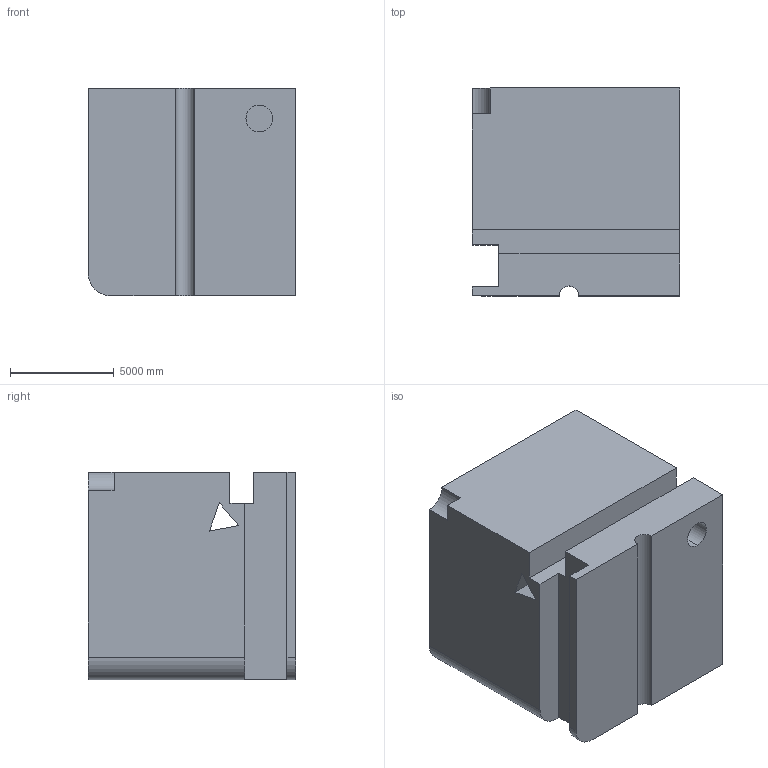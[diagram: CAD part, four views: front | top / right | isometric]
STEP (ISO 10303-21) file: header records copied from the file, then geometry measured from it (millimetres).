
FILE_DESCRIPTION (( 'STEP AP203' ), '1' );
FILE_NAME ('184.STEP', '2022-09-05T16:01:40', ( 'user' ), ( '' ), 'SwSTEP 2.0', 'SolidWorks 2021', '' );
FILE_SCHEMA (( 'CONFIG_CONTROL_DESIGN' ));
Length unit declared in the file: centimetre
Products named in the file (1): 184
Bounding box: 10000 x 10000 x 10000 mm (x, y, z)
Volume: 929611101038.1 mm3; surface area: 730162345.9 mm2
Topology: 1 solids, 1 shells, 33 faces, 87 edges, 58 vertices
Faces by surface type: plane 25, cylinder 8
Entity records: 1098 total; most frequent: CARTESIAN_POINT 179, ORIENTED_EDGE 174, DIRECTION 171, EDGE_CURVE 87, VECTOR 71, LINE 71, VERTEX_POINT 58, AXIS2_PLACEMENT_3D 50
